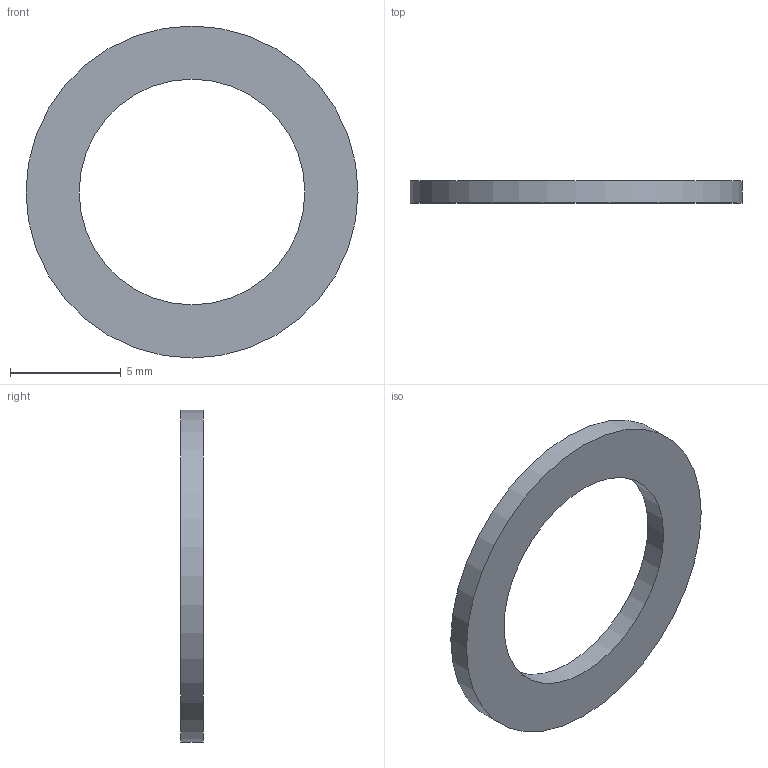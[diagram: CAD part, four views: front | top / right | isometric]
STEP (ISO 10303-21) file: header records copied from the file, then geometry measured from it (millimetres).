
FILE_DESCRIPTION(('Open CASCADE Model'),'2;1');
FILE_NAME('Open CASCADE Shape Model','2026-09-23T04:43:31',('Author'),( 'Open CASCADE'),'Open CASCADE STEP processor 7.9','Open CASCADE 7.9' ,'Unknown');
FILE_SCHEMA(('AUTOMOTIVE_DESIGN { 1 0 10303 214 1 1 1 1 }'));
Length unit declared in the file: millimetre
Products named in the file (1): Open CASCADE STEP translator 7.9 15
Bounding box: 15 x 1 x 15 mm (x, y, z)
Volume: 95 mm3; surface area: 269.2 mm2
Topology: 1 solids, 1 shells, 4 faces, 6 edges, 4 vertices
Faces by surface type: cylinder 2, plane 2
Full cylindrical faces by diameter (mm): 10.2 x1, 15 x1
Entity records: 186 total; most frequent: DIRECTION 32, CARTESIAN_POINT 27, ORIENTED_EDGE 12, PCURVE 12, DEFINITIONAL_REPRESENTATION 12, LINE 10, VECTOR 10, AXIS2_PLACEMENT_3D 9
